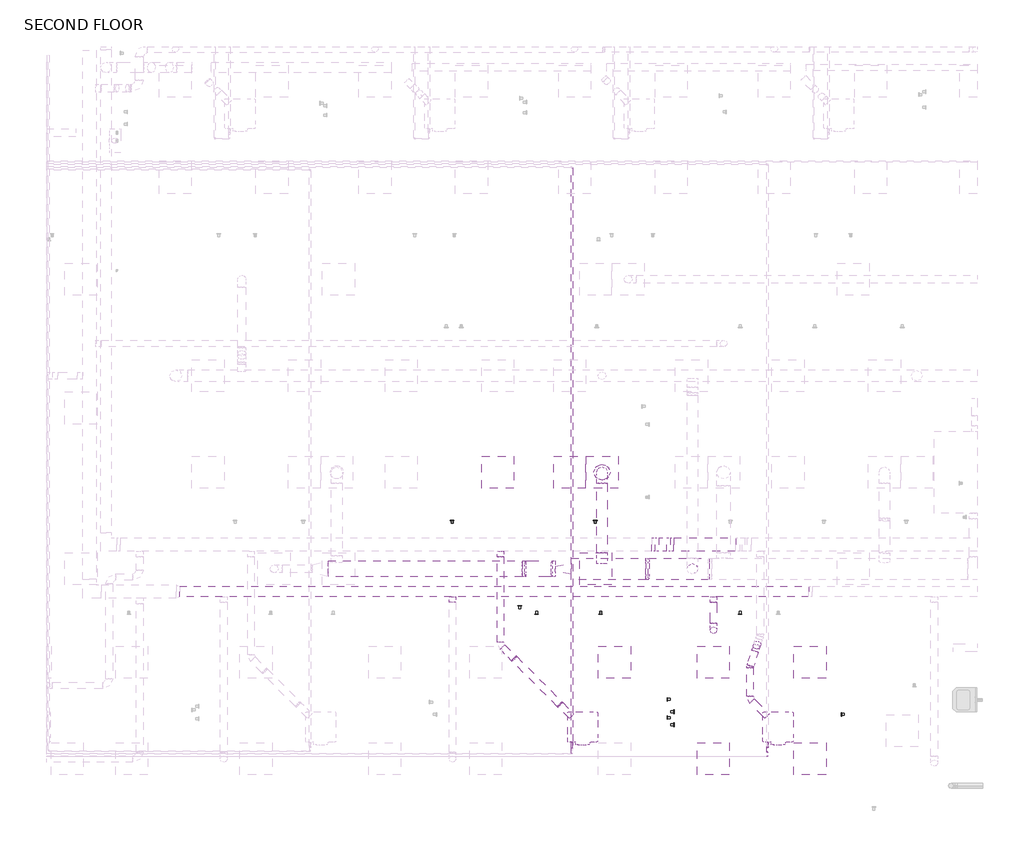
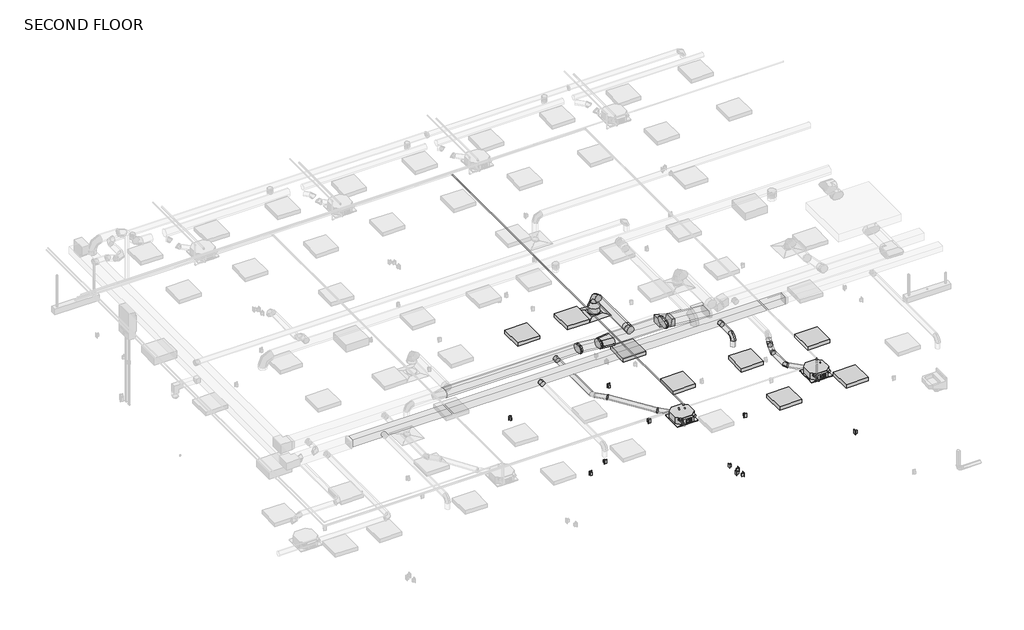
# One storey, part 3 of 12: 20 duct segments, 18 duct fittings, 8 light fixtures, 8 proxies, 6 pipe segments, 4 pipe fittings, 3 switching devices, 2 electric appliances, 1 air terminal.
"""IFC4 building model written with IfcOpenShell, lengths in millimetres."""

from ifc_helpers import new_model, si_unit, point, frame, frame_2d, origin, place, context, project, spatial, polyline, circle_curve, trimmed, segment, composite_curve, outline, extrude, transform, mapped, element, save
from components import air_terminal_78ffba46, mechanical_equipment_2d84379e, duplex_receptacle_countertop_10251bba, oval_elbow_mitered_standard_5b12be7a, oval_elbow_mitered_standard_605f781d, oval_transition_length_standard_f0f2b33e, rectangular_elbow_radius_1_5_w_3731340f, round_elbow_1_d_01278626, round_elbow_1_d_075332d1, round_elbow_1_d_a253342a, round_elbow_1_d_c80420c1, round_elbow_1_d_e3dc691b, round_takeoff_standard_53c2403a, round_takeoff_standard_7fe2b2d5, round_transition_angle_45_degree_1597dbae, telephone_outlet_data_plain_18c24199, troffer_corner_insert_2x2_3lamp_e67c7f8f, elbow_generic_standard_c06ac706, elbow_generic_standard_a088f956

model = new_model("IFC4")

# Units and contexts
model_context = context("Model", 3, world=origin())
ifc_project = project(units=[si_unit("LENGTHUNIT", "METRE", prefix="MILLI")], contexts=[model_context])

# Site, building, storey
site = spatial("IfcSite", under=ifc_project)
building = spatial("IfcBuilding", under=site)
storey = spatial("IfcBuildingStorey", under=building, Name="SECOND FLOOR", Elevation=34544.0)

# Air terminal
placement = place(None, origin())
air_terminal_shape = air_terminal_78ffba46(model_context)
element("IfcAirTerminal", 1, ObjectType="Supply Diffuser - Rectangular Face Round Neck - Hosted : 24\"x24\" Face 12\" Neck - Hosted", at=placement, inside=storey, context=model_context, shape_type="MappedRepresentation", body=[
    mapped(air_terminal_shape, transform((3364.8670393, -751.4804995, 37287.2), x_axis=(-1.0, 0.0, 0.0), y_axis=(0.0, 1.0, 0.0), z_axis=(0.0, 0.0, -1.0))),
])

# Proxies
mechanical_equipment_shape = mechanical_equipment_2d84379e(model_context)
element("IfcBuildingElementProxy", 2, Name="PLFY-P-NCMU-E_4-way_24x24 : PLFY-P12NCMU-E", ObjectType="PLFY-P-NCMU-E_4-way_24x24 : PLFY-P12NCMU-E", at=placement, inside=storey, context=model_context, shape_type="MappedRepresentation", body=[
    mapped(mechanical_equipment_shape, transform((2996.0907893, -5508.0657082, 37287.2), x_axis=(-1.0, 0.0, 0.0), y_axis=(0.0, 1.0, 0.0), z_axis=(0.0, 0.0, -1.0))),
])
element("IfcBuildingElementProxy", 3, Name="PLFY-P-NCMU-E_4-way_24x24 : PLFY-P12NCMU-E", ObjectType="PLFY-P-NCMU-E_4-way_24x24 : PLFY-P12NCMU-E", at=placement, inside=storey, context=model_context, shape_type="MappedRepresentation", body=[
    mapped(mechanical_equipment_shape, transform((6698.9345393, -5508.0657082, 37287.2), x_axis=(-1.0, 0.0, 0.0), y_axis=(0.0, 1.0, 0.0), z_axis=(0.0, 0.0, -1.0))),
])
duplex_receptacle_countertop_shape = duplex_receptacle_countertop_10251bba(model_context)
element("IfcBuildingElementProxy", 4, Name="Duplex Receptacle : Standard", ObjectType="Duplex Receptacle : Standard", at=placement, inside=storey, context=model_context, shape_type="MappedRepresentation", body=[
    mapped(duplex_receptacle_countertop_shape, transform((4601.6170393, -5052.3965239, 35001.2), x_axis=(0.0, -1.0, 0.0), y_axis=(0.0, 0.0, 1.0), z_axis=(-1.0, 0.0, 0.0))),
])
element("IfcBuildingElementProxy", 5, Name="Duplex Receptacle : Standard", ObjectType="Duplex Receptacle : Standard", at=placement, inside=storey, context=model_context, shape_type="MappedRepresentation", body=[
    mapped(duplex_receptacle_countertop_shape, transform((4725.4420393, -5287.0265554, 35001.2), x_axis=(0.0, 1.0, 0.0), y_axis=(0.0, 0.0, 1.0), z_axis=(1.0, 0.0, 0.0))),
])
element("IfcBuildingElementProxy", 6, Name="Duplex Receptacle : Standard", ObjectType="Duplex Receptacle : Standard", at=placement, inside=storey, context=model_context, shape_type="MappedRepresentation", body=[
    mapped(duplex_receptacle_countertop_shape, transform((2124.9845443, -3437.5304995, 35001.2), x_axis=(1.0, 0.0, 0.0), y_axis=(0.0, 0.0, 1.0), z_axis=(0.0, -1.0, 0.0))),
])
element("IfcBuildingElementProxy", 7, Name="Duplex Receptacle : Standard", ObjectType="Duplex Receptacle : Standard", at=placement, inside=storey, context=model_context, shape_type="MappedRepresentation", body=[
    mapped(duplex_receptacle_countertop_shape, transform((5979.6207761, -3437.5304995, 35001.2), x_axis=(1.0, 0.0, 0.0), y_axis=(0.0, 0.0, 1.0), z_axis=(0.0, -1.0, 0.0))),
])
element("IfcBuildingElementProxy", 8, Name="Duplex Receptacle : Standard", ObjectType="Duplex Receptacle : Standard", at=placement, inside=storey, context=model_context, shape_type="MappedRepresentation", body=[
    mapped(duplex_receptacle_countertop_shape, transform((1806.558073, -3281.9554995, 34696.4), x_axis=(-1.0, 0.0, 0.0), y_axis=(0.0, 0.0, 1.0), z_axis=(0.0, 1.0, 0.0))),
])
element("IfcBuildingElementProxy", 9, Name="Duplex Receptacle : Standard", ObjectType="Duplex Receptacle : Standard", at=placement, inside=storey, context=model_context, shape_type="MappedRepresentation", body=[
    mapped(duplex_receptacle_countertop_shape, transform((7903.5295393, -5338.6010615, 35001.2), x_axis=(0.0, -1.0, 0.0), y_axis=(0.0, 0.0, 1.0), z_axis=(-1.0, 0.0, 0.0))),
])

# Duct fittings
oval_elbow_mitered_standard_shape = oval_elbow_mitered_standard_5b12be7a(model_context)
element("IfcDuctFitting", 10, ObjectType="Oval Elbow - Mitered : Standard", at=placement, inside=storey, context=model_context, shape_type="MappedRepresentation", body=[
    mapped(oval_elbow_mitered_standard_shape, transform((2445.3076643, -2580.2804995, 37820.6), x_axis=(-1.0, 0.0, 0.0), y_axis=(0.0, 0.0, 1.0), z_axis=(0.0, 1.0, 0.0))),
])
element("IfcDuctFitting", 11, ObjectType="Oval Elbow - Mitered : Standard", at=placement, inside=storey, context=model_context, shape_type="MappedRepresentation", body=[
    mapped(oval_elbow_mitered_standard_shape, transform((1883.5093571, -2580.2804995, 37872.9293609), x_axis=(1.0, 0.0, 0.0), y_axis=(0.0, 0.0, -1.0), z_axis=(0.0, 1.0, 0.0))),
])
oval_elbow_mitered_standard_2_shape = oval_elbow_mitered_standard_605f781d(model_context)
element("IfcDuctFitting", 12, ObjectType="Oval Elbow - Mitered : Standard", at=placement, inside=storey, context=model_context, shape_type="MappedRepresentation", body=[
    mapped(oval_elbow_mitered_standard_2_shape, transform((4219.891752, -2580.2804995, 37820.6), x_axis=(1.0, 0.0, 0.0), y_axis=(0.0, 0.0, -1.0), z_axis=(0.0, 1.0, 0.0))),
])
oval_transition_length_standard_shape = oval_transition_length_standard_f0f2b33e(model_context)
element("IfcDuctFitting", 13, ObjectType="Oval Transition - Length : Standard", at=placement, inside=storey, context=model_context, shape_type="MappedRepresentation", body=[
    mapped(oval_transition_length_standard_shape, transform((2780.2292705, -2580.2804995, 37820.6), x_axis=(-1.0, 0.0, 0.0), y_axis=(0.0, -1.0, 0.0), z_axis=(0.0, 0.0, 1.0))),
])
rectangular_elbow_radius_1_5_w_shape = rectangular_elbow_radius_1_5_w_3731340f(model_context)
element("IfcDuctFitting", 14, ObjectType="Rectangular Elbow - Radius : 1.5 W", at=placement, inside=storey, context=model_context, shape_type="MappedRepresentation", body=[
    mapped(rectangular_elbow_radius_1_5_w_shape, transform((4671.7764464, -2123.0804995, 37439.6), x_axis=(-1.0, 0.0, 0.0), y_axis=(0.0, 0.0, 1.0), z_axis=(0.0, 1.0, 0.0))),
])
element("IfcDuctFitting", 15, ObjectType="Rectangular Elbow - Radius : 1.5 W", at=placement, inside=storey, context=model_context, shape_type="MappedRepresentation", body=[
    mapped(rectangular_elbow_radius_1_5_w_shape, transform((4358.7795985, -2123.0804995, 37541.2), x_axis=(1.0, 0.0, 0.0), y_axis=(0.0, 0.0, -1.0), z_axis=(0.0, 1.0, 0.0))),
])
round_elbow_1_d_shape = round_elbow_1_d_01278626(model_context)
element("IfcDuctFitting", 16, ObjectType="Round Elbow : 1 D", at=placement, inside=storey, context=model_context, shape_type="MappedRepresentation", body=[
    mapped(round_elbow_1_d_shape, transform((6168.7489409, -4436.9011511, 37381.259375), x_axis=(-0.3033014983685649, -0.9528946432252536, 0.0), y_axis=(0.9528946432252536, -0.3033014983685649, 0.0), z_axis=(0.0, 0.0, 1.0))),
])
round_elbow_1_d_2_shape = round_elbow_1_d_075332d1(model_context)
element("IfcDuctFitting", 17, ObjectType="Round Elbow : 1 D", at=placement, inside=storey, context=model_context, shape_type="MappedRepresentation", body=[
    mapped(round_elbow_1_d_2_shape, transform((1698.7492739, -4279.3452341, 37541.2), x_axis=(0.7071067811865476, -0.7071067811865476, 0.0), y_axis=(0.0, 0.0, -1.0000000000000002), z_axis=(0.7071067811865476, 0.7071067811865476, 0.0))),
])
element("IfcDuctFitting", 18, ObjectType="Round Elbow : 1 D", at=placement, inside=storey, context=model_context, shape_type="MappedRepresentation", body=[
    mapped(round_elbow_1_d_2_shape, transform((2569.7985692, -5150.3945294, 37381.2593852), x_axis=(0.7012209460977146, -0.7012209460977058, -0.12875701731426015), y_axis=(0.09104496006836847, -0.09104496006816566, 0.9916761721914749), z_axis=(-0.7071067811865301, -0.707106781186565, 0.0))),
])
round_elbow_1_d_3_shape = round_elbow_1_d_a253342a(model_context)
element("IfcDuctFitting", 19, ObjectType="Round Elbow : 1 D", at=placement, inside=storey, context=model_context, shape_type="MappedRepresentation", body=[
    mapped(round_elbow_1_d_3_shape, transform((3364.8670393, -751.4804995, 37820.6), x_axis=(0.0, 0.0, 1.0), y_axis=(0.0, -1.0, 0.0), z_axis=(1.0, 0.0, 0.0))),
])
round_elbow_1_d_4_shape = round_elbow_1_d_c80420c1(model_context)
element("IfcDuctFitting", 20, ObjectType="Round Elbow : 1 D", at=placement, inside=storey, context=model_context, shape_type="MappedRepresentation", body=[
    mapped(round_elbow_1_d_4_shape, transform((5474.1782893, -3742.3304995, 37693.6), x_axis=(0.0, 0.0, 1.0), y_axis=(0.0, 1.0, 0.0), z_axis=(-1.0, 0.0, 0.0))),
])
round_elbow_1_d_5_shape = round_elbow_1_d_e3dc691b(model_context)
element("IfcDuctFitting", 21, ObjectType="Round Elbow : 1 D", at=placement, inside=storey, context=model_context, shape_type="MappedRepresentation", body=[
    mapped(round_elbow_1_d_5_shape, transform((6168.7489409, -5046.5011511, 37381.259375), x_axis=(0.0, -1.0, 0.0), y_axis=(0.9999999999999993, 0.0, 3.167850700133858e-08), z_axis=(-3.167850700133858e-08, 0.0, 0.9999999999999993))),
])
element("IfcDuctFitting", 22, ObjectType="Round Elbow : 1 D", at=placement, inside=storey, context=model_context, shape_type="MappedRepresentation", body=[
    mapped(round_elbow_1_d_5_shape, transform((6279.2252508, -4089.8132385, 37381.259375), x_axis=(-0.21446654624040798, -0.6737982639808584, -0.707106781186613), y_axis=(-0.21446654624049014, -0.6737982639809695, 0.7071067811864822), z_axis=(-0.9528946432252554, 0.3033014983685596, 0.0))),
])
round_takeoff_standard_shape = round_takeoff_standard_53c2403a(model_context)
element("IfcDuctFitting", 23, ObjectType="Round Takeoff : Standard", at=placement, inside=storey, context=model_context, shape_type="MappedRepresentation", body=[
    mapped(round_takeoff_standard_shape, transform((3364.8670393, -2377.0804995, 37820.6), x_axis=(0.0, 1.0, 0.0), y_axis=(1.0, 0.0, 0.0), z_axis=(0.0, 0.0, -1.0))),
])
round_takeoff_standard_2_shape = round_takeoff_standard_7fe2b2d5(model_context)
element("IfcDuctFitting", 24, ObjectType="Round Takeoff : Standard", at=placement, inside=storey, context=model_context, shape_type="MappedRepresentation", body=[
    mapped(round_takeoff_standard_2_shape, transform((5474.1782893, -3111.8706668, 37693.6), x_axis=(0.0, -1.0, 0.0), y_axis=(-1.0, 0.0, 0.0), z_axis=(0.0, 0.0, -1.0))),
])
element("IfcDuctFitting", 25, ObjectType="Round Takeoff : Standard", at=placement, inside=storey, context=model_context, shape_type="MappedRepresentation", body=[
    mapped(round_takeoff_standard_2_shape, transform((530.2420393, -3111.8706668, 37693.6), x_axis=(0.0, -1.0, 0.0), y_axis=(-1.0, 0.0, 0.0), z_axis=(0.0, 0.0, -1.0))),
])
element("IfcDuctFitting", 26, ObjectType="Round Takeoff : Standard", at=placement, inside=storey, context=model_context, shape_type="MappedRepresentation", body=[
    mapped(round_takeoff_standard_2_shape, transform((1442.1559931, -2250.0804995, 37541.2), x_axis=(0.0, -1.0, 0.0), y_axis=(-1.0, 0.0, 0.0), z_axis=(0.0, 0.0, -1.0))),
])
round_transition_angle_45_degree_shape = round_transition_angle_45_degree_1597dbae(model_context)
element("IfcDuctFitting", 27, ObjectType="Round Transition - Angle : 45 Degree", at=placement, inside=storey, context=model_context, shape_type="MappedRepresentation", body=[
    mapped(round_transition_angle_45_degree_shape, transform((3364.8670393, -751.4804995, 37494.757951), x_axis=(0.0, 0.0, 1.0), y_axis=(1.0, 0.0, 0.0), z_axis=(0.0, 1.0, 0.0))),
])

# Duct segments
element("IfcDuctSegment", 28, ObjectType="Mitered Elbows / Taps", at=placement, inside=storey, context=model_context, shape_type="SweptSolid", body=[
    extrude(outline(composite_curve([segment(trimmed(circle_curve(frame_2d((-2478.6804995, 37820.6)), 101.6), [point((-2478.6804995, 37922.2))], [point((-2377.0804995, 37820.6))], False, "CARTESIAN"), True, "CONTINUOUS"), segment(trimmed(circle_curve(frame_2d((-2478.6804995, 37820.6)), 101.6), [point((-2377.0804995, 37820.6))], [point((-2478.6804995, 37719.0))], False, "CARTESIAN"), True, "CONTINUOUS"), segment(polyline([(-2478.6804995, 37719.0), (-2681.8804995, 37719.0)]), True, "CONTINUOUS"), segment(trimmed(circle_curve(frame_2d((-2681.8804995, 37820.6)), 101.6), [point((-2681.8804995, 37719.0))], [point((-2783.4804995, 37820.6))], False, "CARTESIAN"), True, "CONTINUOUS"), segment(trimmed(circle_curve(frame_2d((-2681.8804995, 37820.6)), 101.6), [point((-2783.4804995, 37820.6))], [point((-2681.8804995, 37922.2))], False, "CARTESIAN"), True, "CONTINUOUS"), segment(polyline([(-2681.8804995, 37922.2), (-2478.6804995, 37922.2)]), True, "CONTINUOUS")], self_intersect=False)), frame((2780.2292705, 0.0, 0.0), z_axis=(1.0, 0.0, 0.0), x_axis=(0.0, 1.0, 0.0)), (0.0, 0.0, 1.0), 1409.6291269),
])
element("IfcDuctSegment", 29, ObjectType="Mitered Elbows / Taps", at=placement, inside=storey, context=model_context, shape_type="SweptSolid", body=[
    extrude(outline(composite_curve([segment(polyline([(-2631.0804995, 37974.5293609), (-2529.4804995, 37974.5293609)]), True, "CONTINUOUS"), segment(trimmed(circle_curve(frame_2d((-2529.4804995, 37872.9293609)), 101.6), [point((-2529.4804995, 37974.5293609))], [point((-2427.8804995, 37872.9293609))], False, "CARTESIAN"), True, "CONTINUOUS"), segment(trimmed(circle_curve(frame_2d((-2529.4804995, 37872.9293609)), 101.6), [point((-2427.8804995, 37872.9293609))], [point((-2529.4804995, 37771.3293609))], False, "CARTESIAN"), True, "CONTINUOUS"), segment(polyline([(-2529.4804995, 37771.3293609), (-2631.0804995, 37771.3293609)]), True, "CONTINUOUS"), segment(trimmed(circle_curve(frame_2d((-2631.0804995, 37872.9293609)), 101.6), [point((-2631.0804995, 37771.3293609))], [point((-2732.6804995, 37872.9293609))], False, "CARTESIAN"), True, "CONTINUOUS"), segment(trimmed(circle_curve(frame_2d((-2631.0804995, 37872.9293609)), 101.6), [point((-2732.6804995, 37872.9293609))], [point((-2631.0804995, 37974.5293609))], False, "CARTESIAN"), True, "CONTINUOUS")], self_intersect=False)), frame((-1817.5229315, 0.0, 0.0), z_axis=(1.0, 0.0, 0.0), x_axis=(0.0, 1.0, 0.0)), (0.0, 0.0, 1.0), 3670.9106824),
])
element("IfcDuctSegment", 30, ObjectType="Mitered Elbows / Taps", at=placement, inside=storey, context=model_context, shape_type="SweptSolid", body=[
    extrude(outline(polyline([(-4638.1666561, -3111.8706668), (-4638.1666561, -2908.6706668), (7283.5019781, -2908.6706668), (7283.5019781, -3111.8706668), (-4638.1666561, -3111.8706668)])), frame((0.0, 0.0, 37592.0), z_axis=(0.0, 0.0, 1.0), x_axis=(1.0, 0.0, 0.0)), (0.0, 0.0, 1.0), 203.2),
])
element("IfcDuctSegment", 31, ObjectType="Mitered Elbows / Taps", at=placement, inside=storey, context=model_context, shape_type="SweptSolid", body=[
    extrude(outline(composite_curve([segment(polyline([(101.6000001, 203.2), (101.6000001, 101.6)]), True, "CONTINUOUS"), segment(trimmed(circle_curve(frame_2d((0.0, 101.6)), 101.6), [point((101.6000001, 101.6))], [point((0.0, 0.0))], False, "CARTESIAN"), True, "CONTINUOUS"), segment(trimmed(circle_curve(frame_2d((0.0, 101.6)), 101.6), [point((0.0, 0.0))], [point((-101.6, 101.6))], False, "CARTESIAN"), True, "CONTINUOUS"), segment(polyline([(-101.6, 101.6), (-101.6, 203.2)]), True, "CONTINUOUS"), segment(trimmed(circle_curve(frame_2d((0.0, 203.2)), 101.6), [point((-101.6, 203.2))], [point((0.0, 304.8))], False, "CARTESIAN"), True, "CONTINUOUS"), segment(trimmed(circle_curve(frame_2d((0.0, 203.2)), 101.6), [point((0.0, 304.8))], [point((101.6000001, 203.2))], False, "CARTESIAN"), True, "CONTINUOUS")], self_intersect=False)), frame((2415.3158846, -2732.6804995, 37823.3936194), z_axis=(-0.9956899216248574, 0.0, 0.09274470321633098), x_axis=(0.09274470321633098, 0.0, 0.9956899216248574)), (0.0, 0.0, 1.0), 503.9869712),
])
element("IfcDuctSegment", 32, ObjectType="Mitered Elbows / Taps", at=placement, inside=storey, context=model_context, shape_type="SweptSolid", body=[
    extrude(outline(composite_curve([segment(polyline([(101.6, 304.8), (101.6, 101.6)]), True, "CONTINUOUS"), segment(trimmed(circle_curve(frame_2d((0.0, 101.6)), 101.6), [point((101.6, 101.6))], [point((0.0, 0.0))], False, "CARTESIAN"), True, "CONTINUOUS"), segment(trimmed(circle_curve(frame_2d((0.0, 101.6)), 101.6), [point((0.0, 0.0))], [point((-101.6000001, 101.6))], False, "CARTESIAN"), True, "CONTINUOUS"), segment(polyline([(-101.6000001, 101.6), (-101.6000001, 304.8)]), True, "CONTINUOUS"), segment(trimmed(circle_curve(frame_2d((0.0, 304.8)), 101.6), [point((-101.6000001, 304.8))], [point((0.0, 406.4))], False, "CARTESIAN"), True, "CONTINUOUS"), segment(trimmed(circle_curve(frame_2d((0.0, 304.8)), 101.6), [point((0.0, 406.4))], [point((101.6, 304.8))], False, "CARTESIAN"), True, "CONTINUOUS")], self_intersect=False)), frame((5387.0654619, -2783.4804995, 37713.922833), z_axis=(-0.9958492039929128, 0.0, 0.09101847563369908), x_axis=(0.09101847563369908, 0.0, 0.9958492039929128)), (0.0, 0.0, 1.0), 1142.0052485),
])
element("IfcDuctSegment", 33, ObjectType="Radius Elbows / Taps", at=placement, inside=storey, context=model_context, shape_type="SweptSolid", body=[
    extrude(outline(polyline([(4720.0073982, -2250.0804995), (4720.0073982, -1996.0804995), (5894.9492053, -1996.0804995), (5894.9492053, -2250.0804995), (4720.0073982, -2250.0804995)])), frame((0.0, 0.0, 37338.0), z_axis=(0.0, 0.0, 1.0), x_axis=(1.0, 0.0, 0.0)), (0.0, 0.0, 1.0), 203.2),
])
element("IfcDuctSegment", 34, ObjectType="Radius Elbows / Taps", at=placement, inside=storey, context=model_context, shape_type="SweptSolid", body=[
    extrude(outline(polyline([(0.0, -254.0), (0.0, 0.0), (232.6119283, 0.0), (232.6119283, -254.0), (0.0, -254.0)])), frame((4594.533307, -2250.0804995, 37357.8547731), z_axis=(0.30874530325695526, 0.0, 0.9511447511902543), x_axis=(-0.9511447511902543, 0.0, 0.30874530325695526)), (0.0, 0.0, 1.0), 203.2),
])
element("IfcDuctSegment", 35, ObjectType="Taps / Short Radius", at=placement, inside=storey, context=model_context, shape_type="SweptSolid", body=[
    extrude(outline(composite_curve([segment(trimmed(circle_curve(frame_2d((37820.6, 3364.8670393)), 101.6), [point((37820.6, 3263.2670393))], [point((37719.0, 3364.8670393))], False, "CARTESIAN"), True, "CONTINUOUS"), segment(trimmed(circle_curve(frame_2d((37820.6, 3364.8670393)), 101.6), [point((37719.0, 3364.8670393))], [point((37820.6, 3466.4670393))], False, "CARTESIAN"), True, "CONTINUOUS"), segment(trimmed(circle_curve(frame_2d((37820.6, 3364.8670393)), 101.6), [point((37820.6, 3466.4670393))], [point((37922.2, 3364.8670393))], False, "CARTESIAN"), True, "CONTINUOUS"), segment(trimmed(circle_curve(frame_2d((37820.6, 3364.8670393)), 101.6), [point((37922.2, 3364.8670393))], [point((37820.6, 3263.2670393))], False, "CARTESIAN"), True, "CONTINUOUS")], self_intersect=False)), frame((0.0, -2275.4804995, 0.0), z_axis=(0.0, 1.0, 0.0), x_axis=(0.0, 0.0, 1.0)), (0.0, 0.0, 1.0), 1320.8),
])
element("IfcDuctSegment", 36, ObjectType="Taps / Short Radius", at=placement, inside=storey, context=model_context, shape_type="SweptSolid", body=[
    extrude(outline(composite_curve([segment(trimmed(circle_curve(frame_2d((5077.7795393, -2580.2804995)), 101.6), [point((5179.3795393, -2580.2804995))], [point((5077.7795393, -2681.8804995))], False, "CARTESIAN"), True, "CONTINUOUS"), segment(trimmed(circle_curve(frame_2d((5077.7795393, -2580.2804995)), 101.6), [point((5077.7795393, -2681.8804995))], [point((4976.1795393, -2580.2804995))], False, "CARTESIAN"), True, "CONTINUOUS"), segment(trimmed(circle_curve(frame_2d((5077.7795393, -2580.2804995)), 101.6), [point((4976.1795393, -2580.2804995))], [point((5077.7795393, -2478.6804995))], False, "CARTESIAN"), True, "CONTINUOUS"), segment(trimmed(circle_curve(frame_2d((5077.7795393, -2580.2804995)), 101.6), [point((5077.7795393, -2478.6804995))], [point((5179.3795393, -2580.2804995))], False, "CARTESIAN"), True, "CONTINUOUS")], self_intersect=False)), frame((0.0, 0.0, 37388.8), z_axis=(0.0, 0.0, 1.0), x_axis=(1.0, 0.0, 0.0)), (0.0, 0.0, 1.0), 76.2),
])
element("IfcDuctSegment", 37, ObjectType="Taps / Short Radius", at=placement, inside=storey, context=model_context, shape_type="SweptSolid", body=[
    extrude(outline(composite_curve([segment(trimmed(circle_curve(frame_2d((37693.6, 5474.1782893)), 63.5), [point((37693.6, 5410.6782893))], [point((37630.1, 5474.1782893))], False, "CARTESIAN"), True, "CONTINUOUS"), segment(trimmed(circle_curve(frame_2d((37693.6, 5474.1782893)), 63.5), [point((37630.1, 5474.1782893))], [point((37693.6, 5537.6782893))], False, "CARTESIAN"), True, "CONTINUOUS"), segment(trimmed(circle_curve(frame_2d((37693.6, 5474.1782893)), 63.5), [point((37693.6, 5537.6782893))], [point((37757.1, 5474.1782893))], False, "CARTESIAN"), True, "CONTINUOUS"), segment(trimmed(circle_curve(frame_2d((37693.6, 5474.1782893)), 63.5), [point((37757.1, 5474.1782893))], [point((37693.6, 5410.6782893))], False, "CARTESIAN"), True, "CONTINUOUS")], self_intersect=False)), frame((0.0, -3615.3304995, 0.0), z_axis=(0.0, 1.0, 0.0), x_axis=(0.0, 0.0, 1.0)), (0.0, 0.0, 1.0), 401.8598327),
])
element("IfcDuctSegment", 38, ObjectType="Taps / Short Radius", at=placement, inside=storey, context=model_context, shape_type="SweptSolid", body=[
    extrude(outline(composite_curve([segment(trimmed(circle_curve(frame_2d((5474.1782893, -3742.3304995)), 63.5), [point((5537.6782893, -3742.3304995))], [point((5474.1782893, -3805.8304995))], False, "CARTESIAN"), True, "CONTINUOUS"), segment(trimmed(circle_curve(frame_2d((5474.1782893, -3742.3304995)), 63.5), [point((5474.1782893, -3805.8304995))], [point((5410.6782893, -3742.3304995))], False, "CARTESIAN"), True, "CONTINUOUS"), segment(trimmed(circle_curve(frame_2d((5474.1782893, -3742.3304995)), 63.5), [point((5410.6782893, -3742.3304995))], [point((5474.1782893, -3678.8304995))], False, "CARTESIAN"), True, "CONTINUOUS"), segment(trimmed(circle_curve(frame_2d((5474.1782893, -3742.3304995)), 63.5), [point((5474.1782893, -3678.8304995))], [point((5537.6782893, -3742.3304995))], False, "CARTESIAN"), True, "CONTINUOUS")], self_intersect=False)), frame((0.0, 0.0, 37388.8), z_axis=(0.0, 0.0, 1.0), x_axis=(1.0, 0.0, 0.0)), (0.0, 0.0, 1.0), 177.8),
])
element("IfcDuctSegment", 39, ObjectType="Taps / Short Radius", at=placement, inside=storey, context=model_context, shape_type="SweptSolid", body=[
    extrude(outline(composite_curve([segment(trimmed(circle_curve(frame_2d((37541.2, 1442.1559931)), 63.5), [point((37541.2, 1378.6559931))], [point((37477.7, 1442.1559931))], False, "CARTESIAN"), True, "CONTINUOUS"), segment(trimmed(circle_curve(frame_2d((37541.2, 1442.1559931)), 63.5), [point((37477.7, 1442.1559931))], [point((37541.2, 1505.6559931))], False, "CARTESIAN"), True, "CONTINUOUS"), segment(trimmed(circle_curve(frame_2d((37541.2, 1442.1559931)), 63.5), [point((37541.2, 1505.6559931))], [point((37604.7, 1442.1559931))], False, "CARTESIAN"), True, "CONTINUOUS"), segment(trimmed(circle_curve(frame_2d((37541.2, 1442.1559931)), 63.5), [point((37604.7, 1442.1559931))], [point((37541.2, 1378.6559931))], False, "CARTESIAN"), True, "CONTINUOUS")], self_intersect=False)), frame((0.0, -3970.1468308, 0.0), z_axis=(0.0, 1.0, 0.0), x_axis=(0.0, 0.0, 1.0)), (0.0, 0.0, 1.0), 1618.4663314),
])
element("IfcDuctSegment", 40, ObjectType="Taps / Short Radius", at=placement, inside=storey, context=model_context, shape_type="SweptSolid", body=[
    extrude(outline(composite_curve([segment(trimmed(circle_curve(frame_2d((3364.8670393, -751.4804995)), 152.4), [point((3517.2670393, -751.4804995))], [point((3364.8670393, -903.8804995))], False, "CARTESIAN"), True, "CONTINUOUS"), segment(trimmed(circle_curve(frame_2d((3364.8670393, -751.4804995)), 152.4), [point((3364.8670393, -903.8804995))], [point((3212.4670393, -751.4804995))], False, "CARTESIAN"), True, "CONTINUOUS"), segment(trimmed(circle_curve(frame_2d((3364.8670393, -751.4804995)), 152.4), [point((3212.4670393, -751.4804995))], [point((3364.8670393, -599.0804995))], False, "CARTESIAN"), True, "CONTINUOUS"), segment(trimmed(circle_curve(frame_2d((3364.8670393, -751.4804995)), 152.4), [point((3364.8670393, -599.0804995))], [point((3517.2670393, -751.4804995))], False, "CARTESIAN"), True, "CONTINUOUS")], self_intersect=False)), frame((0.0, 0.0, 37341.175), z_axis=(0.0, 0.0, 1.0), x_axis=(1.0, 0.0, 0.0)), (0.0, 0.0, 1.0), 153.582951),
])
element("IfcDuctSegment", 41, ObjectType="Taps / Short Radius", at=placement, inside=storey, context=model_context, shape_type="SweptSolid", body=[
    extrude(outline(composite_curve([segment(trimmed(circle_curve(frame_2d((0.0, 63.5)), 63.5), [point((63.5, 63.5))], [point((0.0, 0.0))], False, "CARTESIAN"), True, "CONTINUOUS"), segment(trimmed(circle_curve(frame_2d((0.0, 63.5)), 63.5), [point((0.0, 0.0))], [point((-63.5, 63.5))], False, "CARTESIAN"), True, "CONTINUOUS"), segment(trimmed(circle_curve(frame_2d((0.0, 63.5)), 63.5), [point((-63.5, 63.5))], [point((0.0, 127.0))], False, "CARTESIAN"), True, "CONTINUOUS"), segment(trimmed(circle_curve(frame_2d((0.0, 63.5)), 63.5), [point((0.0, 127.0))], [point((63.5, 63.5))], False, "CARTESIAN"), True, "CONTINUOUS")], self_intersect=False)), frame((6492.0381612, -5369.7903714, 37444.7593852), z_axis=(-0.7071067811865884, 0.7071067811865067, 0.0), x_axis=(0.7071067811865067, 0.7071067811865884, 0.0)), (0.0, 0.0, 1.0), 404.5948776),
])
element("IfcDuctSegment", 42, ObjectType="Taps / Short Radius", at=placement, inside=storey, context=model_context, shape_type="SweptSolid", body=[
    extrude(outline(composite_curve([segment(trimmed(circle_curve(frame_2d((37381.259375, 6168.7489409)), 63.5), [point((37381.259375, 6232.2489409))], [point((37444.759375, 6168.7489409))], False, "CARTESIAN"), True, "CONTINUOUS"), segment(trimmed(circle_curve(frame_2d((37381.259375, 6168.7489409)), 63.5), [point((37444.759375, 6168.7489409))], [point((37381.259375, 6105.2489409))], False, "CARTESIAN"), True, "CONTINUOUS"), segment(trimmed(circle_curve(frame_2d((37381.259375, 6168.7489409)), 63.5), [point((37381.259375, 6105.2489409))], [point((37317.759375, 6168.7489409))], False, "CARTESIAN"), True, "CONTINUOUS"), segment(trimmed(circle_curve(frame_2d((37381.259375, 6168.7489409)), 63.5), [point((37317.759375, 6168.7489409))], [point((37381.259375, 6232.2489409))], False, "CARTESIAN"), True, "CONTINUOUS")], self_intersect=False)), frame((0.0, -4993.8960286, 0.0), z_axis=(0.0, 1.0, 0.0), x_axis=(0.0, 0.0, 1.0)), (0.0, 0.0, 1.0), 537.2706746),
])
element("IfcDuctSegment", 43, ObjectType="Taps / Short Radius", at=placement, inside=storey, context=model_context, shape_type="SweptSolid", body=[
    extrude(outline(composite_curve([segment(trimmed(circle_curve(frame_2d((0.0, -63.5)), 63.5), [point((-63.5, -63.5))], [point((0.0, 0.0))], False, "CARTESIAN"), True, "CONTINUOUS"), segment(trimmed(circle_curve(frame_2d((0.0, -63.5)), 63.5), [point((0.0, 0.0))], [point((63.5, -63.5))], False, "CARTESIAN"), True, "CONTINUOUS"), segment(trimmed(circle_curve(frame_2d((0.0, -63.5)), 63.5), [point((63.5, -63.5))], [point((0.0, -127.0))], False, "CARTESIAN"), True, "CONTINUOUS"), segment(trimmed(circle_curve(frame_2d((0.0, -63.5)), 63.5), [point((0.0, -127.0))], [point((-63.5, -63.5))], False, "CARTESIAN"), True, "CONTINUOUS")], self_intersect=False)), frame((6174.7313212, -4418.1060637, 37317.759375), z_axis=(0.3033014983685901, 0.9528946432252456, 0.0), x_axis=(0.9528946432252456, -0.3033014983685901, 0.0)), (0.0, 0.0, 1.0), 291.9165176),
])
element("IfcDuctSegment", 44, ObjectType="Taps / Short Radius", at=placement, inside=storey, context=model_context, shape_type="SweptSolid", body=[
    extrude(outline(composite_curve([segment(trimmed(circle_curve(frame_2d((0.0, -63.5)), 63.5), [point((61.9503108, -77.4430621))], [point((-13.9430621, -125.4503108))], False, "CARTESIAN"), True, "CONTINUOUS"), segment(trimmed(circle_curve(frame_2d((0.0, -63.5)), 63.5), [point((-13.9430621, -125.4503108))], [point((-61.9503109, -49.5569378))], False, "CARTESIAN"), True, "CONTINUOUS"), segment(trimmed(circle_curve(frame_2d((0.0, -63.5)), 63.5), [point((-61.9503109, -49.5569378))], [point((13.943062, -1.5496891))], False, "CARTESIAN"), True, "CONTINUOUS"), segment(trimmed(circle_curve(frame_2d((0.0, -63.5)), 63.5), [point((13.943062, -1.5496891))], [point((61.9503108, -77.4430621))], False, "CARTESIAN"), True, "CONTINUOUS")], self_intersect=False)), frame((6290.5072898, -4008.3970347, 37374.6513289), z_axis=(0.21446654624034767, 0.67379826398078, 0.707106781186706), x_axis=(0.9767313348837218, -0.1479497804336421, -0.15526352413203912)), (0.0, 0.0, 1.0), 85.0589317),
])
element("IfcDuctSegment", 45, ObjectType="Taps / Short Radius", at=placement, inside=storey, context=model_context, shape_type="SweptSolid", body=[
    extrude(outline(composite_curve([segment(trimmed(circle_curve(frame_2d((0.0, -63.5)), 63.5), [point((-63.5000001, -63.5))], [point((0.0, 0.0))], False, "CARTESIAN"), True, "CONTINUOUS"), segment(trimmed(circle_curve(frame_2d((0.0, -63.5)), 63.5), [point((0.0, 0.0))], [point((63.5, -63.5))], False, "CARTESIAN"), True, "CONTINUOUS"), segment(trimmed(circle_curve(frame_2d((0.0, -63.5)), 63.5), [point((63.5, -63.5))], [point((0.0, -127.0))], False, "CARTESIAN"), True, "CONTINUOUS"), segment(trimmed(circle_curve(frame_2d((0.0, -63.5)), 63.5), [point((0.0, -127.0))], [point((-63.5000001, -63.5))], False, "CARTESIAN"), True, "CONTINUOUS")], self_intersect=False)), frame((1692.9437569, -4273.539717, 37477.7), z_axis=(-0.7071067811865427, 0.7071067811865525, 0.0), x_axis=(0.7071067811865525, 0.7071067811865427, 0.0)), (0.0, 0.0, 1.0), 302.0623344),
])
element("IfcDuctSegment", 46, ObjectType="Taps / Short Radius", at=placement, inside=storey, context=model_context, shape_type="SweptSolid", body=[
    extrude(outline(composite_curve([segment(trimmed(circle_curve(frame_2d((0.0, -63.5)), 63.5), [point((-62.9800923, -71.6091289))], [point((-8.1091289, -0.5199076))], False, "CARTESIAN"), True, "CONTINUOUS"), segment(trimmed(circle_curve(frame_2d((0.0, -63.5)), 63.5), [point((-8.1091289, -0.5199076))], [point((62.9800923, -55.3908712))], False, "CARTESIAN"), True, "CONTINUOUS"), segment(trimmed(circle_curve(frame_2d((0.0, -63.5)), 63.5), [point((62.9800923, -55.3908712))], [point((8.1091288, -126.4800923))], False, "CARTESIAN"), True, "CONTINUOUS"), segment(trimmed(circle_curve(frame_2d((0.0, -63.5)), 63.5), [point((8.1091288, -126.4800923))], [point((-62.9800923, -71.6091289))], False, "CARTESIAN"), True, "CONTINUOUS")], self_intersect=False)), frame((2564.0413763, -5133.1692965, 37319.8606545), z_axis=(-0.7012209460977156, 0.7012209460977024, 0.1287570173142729), x_axis=(0.7129440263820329, 0.6896906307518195, 0.12663984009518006)), (0.0, 0.0, 1.0), 1225.7690166),
])
element("IfcDuctSegment", 47, ObjectType="Taps / Short Radius", at=placement, inside=storey, context=model_context, shape_type="SweptSolid", body=[
    extrude(outline(composite_curve([segment(trimmed(circle_curve(frame_2d((0.0, -63.5)), 63.5), [point((-63.5, -63.5))], [point((0.0, 0.0))], False, "CARTESIAN"), True, "CONTINUOUS"), segment(trimmed(circle_curve(frame_2d((0.0, -63.5)), 63.5), [point((0.0, 0.0))], [point((63.5, -63.5))], False, "CARTESIAN"), True, "CONTINUOUS"), segment(trimmed(circle_curve(frame_2d((0.0, -63.5)), 63.5), [point((63.5, -63.5))], [point((0.0, -127.0))], False, "CARTESIAN"), True, "CONTINUOUS"), segment(trimmed(circle_curve(frame_2d((0.0, -63.5)), 63.5), [point((0.0, -127.0))], [point((-63.5, -63.5))], False, "CARTESIAN"), True, "CONTINUOUS")], self_intersect=False)), frame((2789.1944112, -5369.7903714, 37317.7593852), z_axis=(-0.7071067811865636, 0.7071067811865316, 0.0), x_axis=(0.7071067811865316, 0.7071067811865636, 0.0)), (0.0, 0.0, 1.0), 302.0623344),
])

# Electric appliances
telephone_outlet_data_plain_shape = telephone_outlet_data_plain_18c24199(model_context)
element("IfcElectricAppliance", 48, ObjectType="Telephone Outlet - Data : Plain", at=placement, inside=storey, context=model_context, shape_type="MappedRepresentation", body=[
    mapped(telephone_outlet_data_plain_shape, transform((4601.6170393, -6277.5235238, 34143.95), x_axis=(0.0, -1.0, 0.0), y_axis=(0.0, 0.0, 1.0), z_axis=(-1.0, 0.0, 0.0))),
])
element("IfcElectricAppliance", 49, ObjectType="Telephone Outlet - Data : Plain", at=placement, inside=storey, context=model_context, shape_type="MappedRepresentation", body=[
    mapped(telephone_outlet_data_plain_shape, transform((4725.4420393, -4652.54341, 34143.95), x_axis=(0.0, 1.0, 0.0), y_axis=(0.0, 0.0, 1.0), z_axis=(1.0, 0.0, 0.0))),
])

# Light fixtures
troffer_corner_insert_2x2_3lamp_shape = troffer_corner_insert_2x2_3lamp_e67c7f8f(model_context)
element("IfcLightFixture", 50, ObjectType="Troffer Corner Insert : 2x2 3Lamp", at=placement, inside=storey, context=model_context, shape_type="MappedRepresentation", body=[
    mapped(troffer_corner_insert_2x2_3lamp_shape, transform((5474.1782893, -4351.9304995, 34848.8), x_axis=(1.0, 0.0, 0.0), y_axis=(0.0, 1.0, 0.0), z_axis=(0.0, 0.0, 1.0))),
])
element("IfcLightFixture", 51, ObjectType="Troffer Corner Insert : 2x2 3Lamp", at=placement, inside=storey, context=model_context, shape_type="MappedRepresentation", body=[
    mapped(troffer_corner_insert_2x2_3lamp_shape, transform((5474.1782893, -6180.7304995, 34848.8), x_axis=(1.0, 0.0, 0.0), y_axis=(0.0, 1.0, 0.0), z_axis=(0.0, 0.0, 1.0))),
])
element("IfcLightFixture", 52, ObjectType="Troffer Corner Insert : 2x2 3Lamp", at=placement, inside=storey, context=model_context, shape_type="MappedRepresentation", body=[
    mapped(troffer_corner_insert_2x2_3lamp_shape, transform((7302.9782893, -4351.9304995, 34848.8), x_axis=(1.0, 0.0, 0.0), y_axis=(0.0, 1.0, 0.0), z_axis=(0.0, 0.0, 1.0))),
])
element("IfcLightFixture", 53, ObjectType="Troffer Corner Insert : 2x2 3Lamp", at=placement, inside=storey, context=model_context, shape_type="MappedRepresentation", body=[
    mapped(troffer_corner_insert_2x2_3lamp_shape, transform((3600.1345393, -4351.9304995, 34848.8), x_axis=(1.0, 0.0, 0.0), y_axis=(0.0, 1.0, 0.0), z_axis=(0.0, 0.0, 1.0))),
])
element("IfcLightFixture", 54, ObjectType="Troffer Corner Insert : 2x2 3Lamp", at=placement, inside=storey, context=model_context, shape_type="MappedRepresentation", body=[
    mapped(troffer_corner_insert_2x2_3lamp_shape, transform((3248.9795393, -2580.2804995, 34848.8), x_axis=(1.0, 0.0, 0.0), y_axis=(0.0, 1.0, 0.0), z_axis=(0.0, 0.0, 1.0))),
])
element("IfcLightFixture", 55, ObjectType="Troffer Corner Insert : 2x2 3Lamp", at=placement, inside=storey, context=model_context, shape_type="MappedRepresentation", body=[
    mapped(troffer_corner_insert_2x2_3lamp_shape, transform((1387.6357893, -751.4804995, 34848.8), x_axis=(1.0, 0.0, 0.0), y_axis=(0.0, 1.0, 0.0), z_axis=(0.0, 0.0, 1.0))),
])
element("IfcLightFixture", 56, ObjectType="Troffer Corner Insert : 2x2 3Lamp", at=placement, inside=storey, context=model_context, shape_type="MappedRepresentation", body=[
    mapped(troffer_corner_insert_2x2_3lamp_shape, transform((2755.2670393, -751.4804995, 34848.8), x_axis=(1.0, 0.0, 0.0), y_axis=(0.0, 1.0, 0.0), z_axis=(0.0, 0.0, 1.0))),
])
element("IfcLightFixture", 57, ObjectType="Troffer Corner Insert : 2x2 3Lamp", at=placement, inside=storey, context=model_context, shape_type="MappedRepresentation", body=[
    mapped(troffer_corner_insert_2x2_3lamp_shape, transform((7302.9782893, -6180.7304995, 34848.8), x_axis=(1.0, 0.0, 0.0), y_axis=(0.0, 1.0, 0.0), z_axis=(0.0, 0.0, 1.0))),
])

# Pipe fittings
elbow_generic_standard_shape = elbow_generic_standard_c06ac706(model_context)
element("IfcPipeFitting", 58, ObjectType="Elbow - Generic : Standard", at=placement, inside=storey, context=model_context, shape_type="MappedRepresentation", body=[
    mapped(elbow_generic_standard_shape, transform((6500.4970393, -5960.9821348, 37998.4), x_axis=(0.0, 0.0, 1.0), y_axis=(0.0, 1.0, 0.0), z_axis=(-1.0, 0.0, 0.0))),
])
element("IfcPipeFitting", 59, ObjectType="Elbow - Generic : Standard", at=placement, inside=storey, context=model_context, shape_type="MappedRepresentation", body=[
    mapped(elbow_generic_standard_shape, transform((6500.4970393, -5960.9821348, 37437.2187602), x_axis=(0.0, -1.0, 0.0), y_axis=(0.0, 0.0, 1.0), z_axis=(-1.0, 0.0, 0.0))),
])
elbow_generic_standard_2_shape = elbow_generic_standard_a088f956(model_context)
element("IfcPipeFitting", 60, ObjectType="Elbow - Generic : Standard", at=placement, inside=storey, context=model_context, shape_type="MappedRepresentation", body=[
    mapped(elbow_generic_standard_2_shape, transform((6497.3220393, -6058.4929995, 37407.8500102), x_axis=(0.0, -1.0, 0.0), y_axis=(0.0, 0.0, 1.0), z_axis=(-1.0, 0.0, 0.0))),
])
element("IfcPipeFitting", 61, ObjectType="Elbow - Generic : Standard", at=placement, inside=storey, context=model_context, shape_type="MappedRepresentation", body=[
    mapped(elbow_generic_standard_2_shape, transform((6497.3220393, -6134.6929995, 37998.4), x_axis=(1.0, 0.0, 0.0), y_axis=(0.0, 1.0, 0.0), z_axis=(0.0, 0.0, 1.0))),
])

# Pipe segments
element("IfcPipeSegment", 62, ObjectType="Copper Tubing", at=placement, inside=storey, context=model_context, shape_type="SweptSolid", body=[
    extrude(outline(composite_curve([segment(trimmed(circle_curve(frame_2d((37998.4, 2797.6532893)), 14.2875), [point((37998.4, 2811.9407893))], [point((38012.6875, 2797.6532893))], False, "CARTESIAN"), True, "CONTINUOUS"), segment(trimmed(circle_curve(frame_2d((37998.4, 2797.6532893)), 14.2875), [point((38012.6875, 2797.6532893))], [point((37998.4, 2783.3657893))], False, "CARTESIAN"), True, "CONTINUOUS"), segment(trimmed(circle_curve(frame_2d((37998.4, 2797.6532893)), 14.2875), [point((37998.4, 2783.3657893))], [point((37984.1125, 2797.6532893))], False, "CARTESIAN"), True, "CONTINUOUS"), segment(trimmed(circle_curve(frame_2d((37998.4, 2797.6532893)), 14.2875), [point((37984.1125, 2797.6532893))], [point((37998.4, 2811.9407893))], False, "CARTESIAN"), True, "CONTINUOUS")], self_intersect=False)), frame((0.0, -5983.1287656, 0.0), z_axis=(0.0, 1.0, 0.0), x_axis=(0.0, 0.0, 1.0)), (0.0, 0.0, 1.0), 10996.5613967),
])
element("IfcPipeSegment", 63, ObjectType="Copper Tubing", at=placement, inside=storey, context=model_context, shape_type="SweptSolid", body=[
    extrude(outline(composite_curve([segment(trimmed(circle_curve(frame_2d((37437.2187602, 6500.4970393)), 14.2875), [point((37437.2187602, 6486.2095393))], [point((37422.9312602, 6500.4970393))], False, "CARTESIAN"), True, "CONTINUOUS"), segment(trimmed(circle_curve(frame_2d((37437.2187602, 6500.4970393)), 14.2875), [point((37422.9312602, 6500.4970393))], [point((37437.2187602, 6514.7845393))], False, "CARTESIAN"), True, "CONTINUOUS"), segment(trimmed(circle_curve(frame_2d((37437.2187602, 6500.4970393)), 14.2875), [point((37437.2187602, 6514.7845393))], [point((37451.5062602, 6500.4970393))], False, "CARTESIAN"), True, "CONTINUOUS"), segment(trimmed(circle_curve(frame_2d((37437.2187602, 6500.4970393)), 14.2875), [point((37451.5062602, 6500.4970393))], [point((37437.2187602, 6486.2095393))], False, "CARTESIAN"), True, "CONTINUOUS")], self_intersect=False)), frame((0.0, -5940.3446348, 0.0), z_axis=(0.0, 1.0, 0.0), x_axis=(0.0, 0.0, 1.0)), (0.0, 0.0, 1.0), 78.7016353),
])
element("IfcPipeSegment", 64, ObjectType="Copper Tubing", at=placement, inside=storey, context=model_context, shape_type="SweptSolid", body=[
    extrude(outline(composite_curve([segment(trimmed(circle_curve(frame_2d((6500.4970393, -5960.9821348)), 14.2875), [point((6514.7845393, -5960.9821348))], [point((6500.4970393, -5975.2696348))], False, "CARTESIAN"), True, "CONTINUOUS"), segment(trimmed(circle_curve(frame_2d((6500.4970393, -5960.9821348)), 14.2875), [point((6500.4970393, -5975.2696348))], [point((6486.2095393, -5960.9821348))], False, "CARTESIAN"), True, "CONTINUOUS"), segment(trimmed(circle_curve(frame_2d((6500.4970393, -5960.9821348)), 14.2875), [point((6486.2095393, -5960.9821348))], [point((6500.4970393, -5946.6946348))], False, "CARTESIAN"), True, "CONTINUOUS"), segment(trimmed(circle_curve(frame_2d((6500.4970393, -5960.9821348)), 14.2875), [point((6500.4970393, -5946.6946348))], [point((6514.7845393, -5960.9821348))], False, "CARTESIAN"), True, "CONTINUOUS")], self_intersect=False)), frame((0.0, 0.0, 37457.8562602), z_axis=(0.0, 0.0, 1.0), x_axis=(1.0, 0.0, 0.0)), (0.0, 0.0, 1.0), 519.9062398),
])
element("IfcPipeSegment", 65, ObjectType="Copper Tubing", at=placement, inside=storey, context=model_context, shape_type="SweptSolid", body=[
    extrude(outline(composite_curve([segment(trimmed(circle_curve(frame_2d((37407.8500102, 6497.3220393)), 7.9375), [point((37407.8500102, 6489.3845393))], [point((37399.9125102, 6497.3220393))], False, "CARTESIAN"), True, "CONTINUOUS"), segment(trimmed(circle_curve(frame_2d((37407.8500102, 6497.3220393)), 7.9375), [point((37399.9125102, 6497.3220393))], [point((37407.8500102, 6505.2595393))], False, "CARTESIAN"), True, "CONTINUOUS"), segment(trimmed(circle_curve(frame_2d((37407.8500102, 6497.3220393)), 7.9375), [point((37407.8500102, 6505.2595393))], [point((37415.7875102, 6497.3220393))], False, "CARTESIAN"), True, "CONTINUOUS"), segment(trimmed(circle_curve(frame_2d((37407.8500102, 6497.3220393)), 7.9375), [point((37415.7875102, 6497.3220393))], [point((37407.8500102, 6489.3845393))], False, "CARTESIAN"), True, "CONTINUOUS")], self_intersect=False)), frame((0.0, -6044.2054995, 0.0), z_axis=(0.0, 1.0, 0.0), x_axis=(0.0, 0.0, 1.0)), (0.0, 0.0, 1.0), 182.5625),
])
element("IfcPipeSegment", 66, ObjectType="Copper Tubing", at=placement, inside=storey, context=model_context, shape_type="SweptSolid", body=[
    extrude(outline(composite_curve([segment(trimmed(circle_curve(frame_2d((37437.2187602, 2797.6532893)), 14.2875), [point((37437.2187602, 2783.3657893))], [point((37422.9312602, 2797.6532893))], False, "CARTESIAN"), True, "CONTINUOUS"), segment(trimmed(circle_curve(frame_2d((37437.2187602, 2797.6532893)), 14.2875), [point((37422.9312602, 2797.6532893))], [point((37437.2187602, 2811.9407893))], False, "CARTESIAN"), True, "CONTINUOUS"), segment(trimmed(circle_curve(frame_2d((37437.2187602, 2797.6532893)), 14.2875), [point((37437.2187602, 2811.9407893))], [point((37451.5062602, 2797.6532893))], False, "CARTESIAN"), True, "CONTINUOUS"), segment(trimmed(circle_curve(frame_2d((37437.2187602, 2797.6532893)), 14.2875), [point((37451.5062602, 2797.6532893))], [point((37437.2187602, 2783.3657893))], False, "CARTESIAN"), True, "CONTINUOUS")], self_intersect=False)), frame((0.0, -5983.1287656, 0.0), z_axis=(0.0, 1.0, 0.0), x_axis=(0.0, 0.0, 1.0)), (0.0, 0.0, 1.0), 121.4857661),
])
element("IfcPipeSegment", 67, ObjectType="Copper Tubing", at=placement, inside=storey, context=model_context, shape_type="SweptSolid", body=[
    extrude(outline(composite_curve([segment(trimmed(circle_curve(frame_2d((37407.8500102, 2794.4782893)), 7.9375), [point((37407.8500102, 2786.5407893))], [point((37399.9125102, 2794.4782893))], False, "CARTESIAN"), True, "CONTINUOUS"), segment(trimmed(circle_curve(frame_2d((37407.8500102, 2794.4782893)), 7.9375), [point((37399.9125102, 2794.4782893))], [point((37407.8500102, 2802.4157893))], False, "CARTESIAN"), True, "CONTINUOUS"), segment(trimmed(circle_curve(frame_2d((37407.8500102, 2794.4782893)), 7.9375), [point((37407.8500102, 2802.4157893))], [point((37415.7875102, 2794.4782893))], False, "CARTESIAN"), True, "CONTINUOUS"), segment(trimmed(circle_curve(frame_2d((37407.8500102, 2794.4782893)), 7.9375), [point((37415.7875102, 2794.4782893))], [point((37407.8500102, 2786.5407893))], False, "CARTESIAN"), True, "CONTINUOUS")], self_intersect=False)), frame((0.0, -6069.6054995, 0.0), z_axis=(0.0, 1.0, 0.0), x_axis=(0.0, 0.0, 1.0)), (0.0, 0.0, 1.0), 207.9625),
])

# Switching devices
element("IfcSwitchingDevice", 68, ObjectType="Lighting Switches : Single Pole", at=placement, inside=storey, context=model_context, shape_type="MappedRepresentation", body=[
    mapped(duplex_receptacle_countertop_shape, transform((3337.5047062, -3437.5304995, 35763.2), x_axis=(1.0, 0.0, 0.0), y_axis=(0.0, 0.0, 1.0), z_axis=(0.0, -1.0, 0.0))),
])
element("IfcSwitchingDevice", 69, ObjectType="Lighting Switches : Three Way", at=placement, inside=storey, context=model_context, shape_type="MappedRepresentation", body=[
    mapped(duplex_receptacle_countertop_shape, transform((3235.491649, -1665.8804995, 35763.2), x_axis=(-1.0, 0.0, 0.0), y_axis=(0.0, 0.0, 1.0), z_axis=(0.0, 1.0, 0.0))),
])
element("IfcSwitchingDevice", 70, ObjectType="Lighting Switches : Three Way", at=placement, inside=storey, context=model_context, shape_type="MappedRepresentation", body=[
    mapped(duplex_receptacle_countertop_shape, transform((524.858987, -1665.8804995, 35763.2), x_axis=(-1.0, 0.0, 0.0), y_axis=(0.0, 0.0, 1.0), z_axis=(0.0, 1.0, 0.0))),
])

save(model, "model.ifc")
